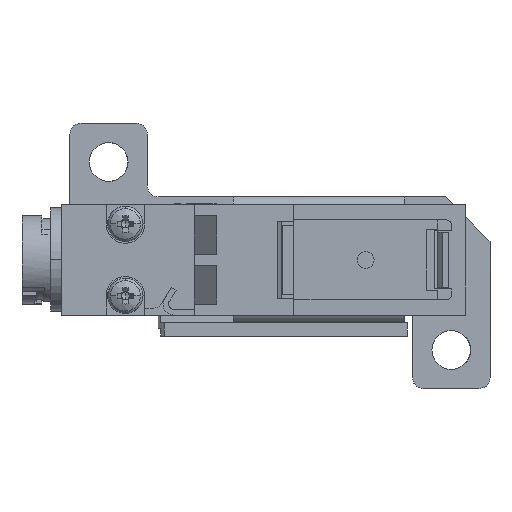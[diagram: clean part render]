
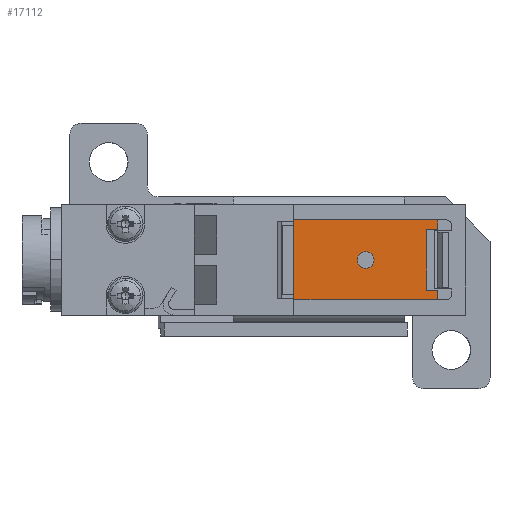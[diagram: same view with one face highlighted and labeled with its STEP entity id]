
A CAD part, left-side view. The second image highlights one B-rep face of the part: STEP entity #17112.
In plain terms, the highlighted planar face has unit normal (-1, 0, 0) as drawn and (0, 0, 1) by its records, which use the part's own axes.
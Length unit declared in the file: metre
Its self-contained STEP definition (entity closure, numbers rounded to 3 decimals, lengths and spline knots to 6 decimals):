
#301 = VERTEX_POINT ( 'NONE', #699 ) ;
#341 = DIRECTION ( 'NONE',  ( 0., 1., 0. ) ) ;
#410 = CARTESIAN_POINT ( 'NONE',  ( -0.003625, 0.0101, 0.006 ) ) ;
#699 = CARTESIAN_POINT ( 'NONE',  ( -0.00275, 0.0036, 0.006 ) ) ;
#802 = CARTESIAN_POINT ( 'NONE',  ( 0.00275, 0.0041, 0.006 ) ) ;
#924 = LINE ( 'NONE', #802, #11994 ) ;
#1332 = VECTOR ( 'NONE', #7442, 1. ) ;
#1349 = LINE ( 'NONE', #11255, #4577 ) ;
#1389 = EDGE_CURVE ( 'NONE', #15877, #11905, #1349, .T. ) ;
#1573 = EDGE_CURVE ( 'NONE', #11960, #9640, #13089, .T. ) ;
#1646 = ORIENTED_EDGE ( 'NONE', *, *, #5726, .T. ) ;
#1759 = ORIENTED_EDGE ( 'NONE', *, *, #1940, .F. ) ;
#1830 = EDGE_LOOP ( 'NONE', ( #4890, #2913, #5520, #1646, #11839, #1759, #15789, #11675 ) ) ;
#1832 = CARTESIAN_POINT ( 'NONE',  ( 0.003625, 0.0036, 0.006 ) ) ;
#1940 = EDGE_CURVE ( 'NONE', #9640, #15877, #8683, .T. ) ;
#1986 = VECTOR ( 'NONE', #341, 1. ) ;
#2160 = DIRECTION ( 'NONE',  ( 0., -1., 0. ) ) ;
#2172 = LINE ( 'NONE', #17485, #2615 ) ;
#2282 = VECTOR ( 'NONE', #12333, 1. ) ;
#2377 = EDGE_CURVE ( 'NONE', #301, #3549, #2172, .T. ) ;
#2544 = CARTESIAN_POINT ( 'NONE',  ( 0.003188, 0.0036, 0.006 ) ) ;
#2585 = VERTEX_POINT ( 'NONE', #9477 ) ;
#2615 = VECTOR ( 'NONE', #17604, 1. ) ;
#2913 = ORIENTED_EDGE ( 'NONE', *, *, #12690, .F. ) ;
#3210 = PLANE ( 'NONE',  #11544 ) ;
#3549 = VERTEX_POINT ( 'NONE', #15695 ) ;
#4577 = VECTOR ( 'NONE', #5720, 1. ) ;
#4670 = CARTESIAN_POINT ( 'NONE',  ( 0., 0.0046, 0.006 ) ) ;
#4773 = FACE_OUTER_BOUND ( 'NONE', #1830, .T. ) ;
#4890 = ORIENTED_EDGE ( 'NONE', *, *, #2377, .T. ) ;
#5042 = ORIENTED_EDGE ( 'NONE', *, *, #14335, .F. ) ;
#5520 = ORIENTED_EDGE ( 'NONE', *, *, #16289, .T. ) ;
#5720 = DIRECTION ( 'NONE',  ( 0., -1., 0. ) ) ;
#5726 = EDGE_CURVE ( 'NONE', #14012, #11905, #12945, .T. ) ;
#6005 = DIRECTION ( 'NONE',  ( 0., 0., -1. ) ) ;
#6239 = CARTESIAN_POINT ( 'NONE',  ( 0., 0.0101, 0.006 ) ) ;
#6244 = AXIS2_PLACEMENT_3D ( 'NONE', #15757, #7437, #17145 ) ;
#6247 = EDGE_CURVE ( 'NONE', #11960, #301, #16174, .T. ) ;
#6615 = EDGE_LOOP ( 'NONE', ( #16102, #5042 ) ) ;
#6656 = CARTESIAN_POINT ( 'NONE',  ( 0.003625, 0.0036, 0.006 ) ) ;
#7195 = CIRCLE ( 'NONE', #13151, 0.00075 ) ;
#7288 = CARTESIAN_POINT ( 'NONE',  ( 0., 0.0166, 0.006 ) ) ;
#7437 = DIRECTION ( 'NONE',  ( 0., 0., 1. ) ) ;
#7442 = DIRECTION ( 'NONE',  ( 1., 0., 0. ) ) ;
#7484 = CIRCLE ( 'NONE', #6244, 0.00075 ) ;
#7628 = DIRECTION ( 'NONE',  ( 1., 0., 0. ) ) ;
#8683 = LINE ( 'NONE', #7288, #1332 ) ;
#9401 = VECTOR ( 'NONE', #10207, 1. ) ;
#9477 = CARTESIAN_POINT ( 'NONE',  ( -0.00075, 0.0101, 0.006 ) ) ;
#9640 = VERTEX_POINT ( 'NONE', #15536 ) ;
#9848 = LINE ( 'NONE', #4670, #9401 ) ;
#10207 = DIRECTION ( 'NONE',  ( -1., 0., 0. ) ) ;
#11255 = CARTESIAN_POINT ( 'NONE',  ( 0.003625, 0.0101, 0.006 ) ) ;
#11544 = AXIS2_PLACEMENT_3D ( 'NONE', #1832, #6005, #15728 ) ;
#11675 = ORIENTED_EDGE ( 'NONE', *, *, #6247, .T. ) ;
#11839 = ORIENTED_EDGE ( 'NONE', *, *, #1389, .F. ) ;
#11855 = VERTEX_POINT ( 'NONE', #13533 ) ;
#11905 = VERTEX_POINT ( 'NONE', #6656 ) ;
#11960 = VERTEX_POINT ( 'NONE', #12620 ) ;
#11994 = VECTOR ( 'NONE', #2160, 1. ) ;
#12116 = EDGE_CURVE ( 'NONE', #17395, #2585, #7484, .T. ) ;
#12186 = FACE_BOUND ( 'NONE', #6615, .T. ) ;
#12264 = DIRECTION ( 'NONE',  ( 1., 0., 0. ) ) ;
#12277 = CARTESIAN_POINT ( 'NONE',  ( 0.003625, 0.0166, 0.006 ) ) ;
#12333 = DIRECTION ( 'NONE',  ( 1., 0., 0. ) ) ;
#12496 = VECTOR ( 'NONE', #12264, 1. ) ;
#12620 = CARTESIAN_POINT ( 'NONE',  ( -0.003625, 0.0036, 0.006 ) ) ;
#12690 = EDGE_CURVE ( 'NONE', #11855, #3549, #9848, .T. ) ;
#12945 = LINE ( 'NONE', #2544, #2282 ) ;
#13089 = LINE ( 'NONE', #410, #1986 ) ;
#13151 = AXIS2_PLACEMENT_3D ( 'NONE', #6239, #15956, #7628 ) ;
#13533 = CARTESIAN_POINT ( 'NONE',  ( 0.00275, 0.0046, 0.006 ) ) ;
#13662 = CARTESIAN_POINT ( 'NONE',  ( 0.00275, 0.0036, 0.006 ) ) ;
#14012 = VERTEX_POINT ( 'NONE', #13662 ) ;
#14335 = EDGE_CURVE ( 'NONE', #2585, #17395, #7195, .T. ) ;
#15536 = CARTESIAN_POINT ( 'NONE',  ( -0.003625, 0.0166, 0.006 ) ) ;
#15695 = CARTESIAN_POINT ( 'NONE',  ( -0.00275, 0.0046, 0.006 ) ) ;
#15728 = DIRECTION ( 'NONE',  ( -1., 0., 0. ) ) ;
#15757 = CARTESIAN_POINT ( 'NONE',  ( 0., 0.0101, 0.006 ) ) ;
#15789 = ORIENTED_EDGE ( 'NONE', *, *, #1573, .F. ) ;
#15877 = VERTEX_POINT ( 'NONE', #12277 ) ;
#15956 = DIRECTION ( 'NONE',  ( 0., 0., 1. ) ) ;
#16102 = ORIENTED_EDGE ( 'NONE', *, *, #12116, .F. ) ;
#16174 = LINE ( 'NONE', #17755, #12496 ) ;
#16289 = EDGE_CURVE ( 'NONE', #11855, #14012, #924, .T. ) ;
#16620 = CARTESIAN_POINT ( 'NONE',  ( 0.00075, 0.0101, 0.006 ) ) ;
#17112 = ADVANCED_FACE ( 'NONE', ( #12186, #4773 ), #3210, .F. ) ;
#17145 = DIRECTION ( 'NONE',  ( 1., 0., 0. ) ) ;
#17395 = VERTEX_POINT ( 'NONE', #16620 ) ;
#17485 = CARTESIAN_POINT ( 'NONE',  ( -0.00275, 0.0041, 0.006 ) ) ;
#17604 = DIRECTION ( 'NONE',  ( 0., 1., 0. ) ) ;
#17755 = CARTESIAN_POINT ( 'NONE',  ( -0.003188, 0.0036, 0.006 ) ) ;
